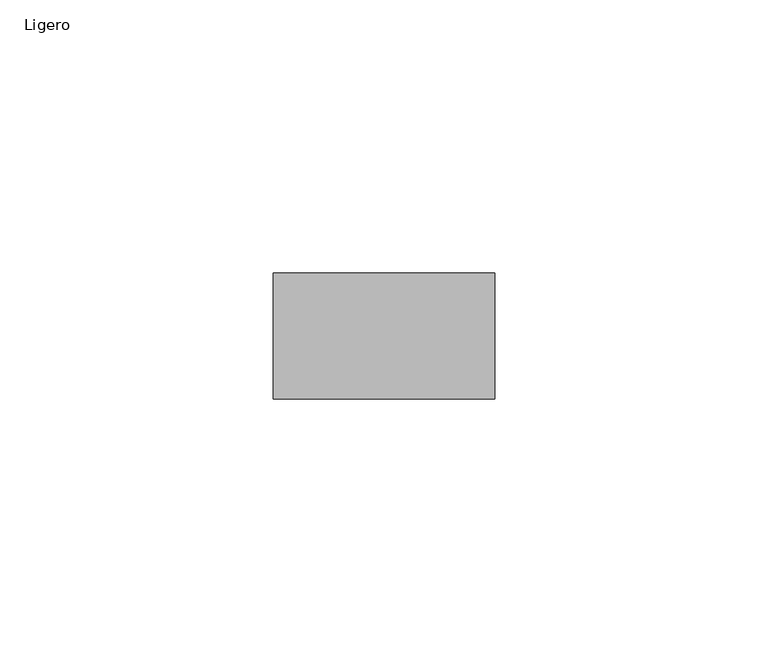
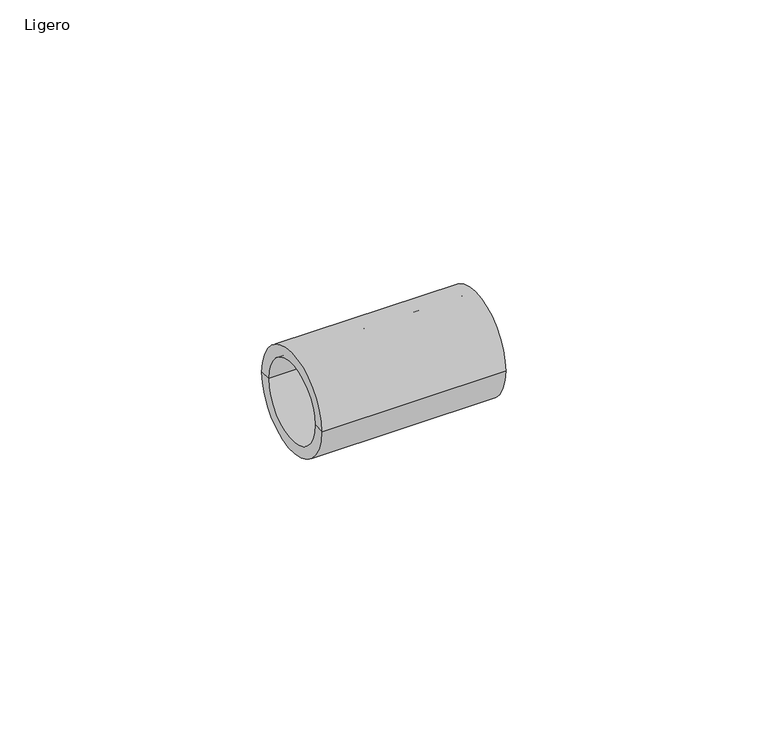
"""IFC4 building model written with IfcOpenShell, lengths in millimetres: cable carrier fitting geometry, AmancoWavin_Unionesdetubería_ConduitCople : Ligero."""

from ifc_helpers import new_model, si_unit, frame, origin, place, context, project, spatial, polyline, circle_curve, source, transform, mapped, element, save
from ifc_brep_helpers import plane_surface, cylinder_surface, revolved_surface, advanced_brep


def ligero_00a50f13(model_context):
    return source(origin(), model_context, "Body", "AdvancedBrep", [
        advanced_brep(
        [(-1.25, 0.0, 0.0), (-1.25, 8.95, 0.0), (-1.25, -8.95, 0.0), (1.25, -8.95, 0.0), (1.25, 8.95, 0.0), (1.25, 0.0, 0.0), (20.25, -8.95, 0.0), (20.25, 8.95, 0.0), (20.25, -11.5, 0.0), (20.25, 11.5, 0.0), (-20.25, -11.5, 0.0), (-20.25, 11.5, 0.0), (-20.25, -8.95, 0.0), (-20.25, 8.95, 0.0)],
        [
            (0, 1),
            (1, 2, circle_curve(frame((-1.25, 0.0, 0.0), z_axis=(-1.0, 0.0, 0.0), x_axis=(0.0, 1.0, 0.0)), 8.95)),
            (2, 0),
            (2, 1, circle_curve(frame((-1.25, 0.0, 0.0), z_axis=(-1.0, 0.0, 0.0), x_axis=(0.0, 1.0, 0.0)), 8.95)),
            (3, 4, circle_curve(frame((1.25, 0.0, 0.0), z_axis=(1.0, 0.0, 0.0), x_axis=(0.0, 1.0, 0.0)), 8.95)),
            (4, 5),
            (5, 3),
            (4, 3, circle_curve(frame((1.25, 0.0, 0.0), z_axis=(1.0, 0.0, 0.0), x_axis=(0.0, 1.0, 0.0)), 8.95)),
            (6, 7, circle_curve(frame((20.25, 0.0, 0.0), z_axis=(1.0, 0.0, 0.0), x_axis=(0.0, 1.0, 0.0)), 8.95)),
            (7, 4),
            (3, 6),
            (7, 6, circle_curve(frame((20.25, 0.0, 0.0), z_axis=(1.0, 0.0, 0.0), x_axis=(0.0, 1.0, 0.0)), 8.95)),
            (8, 9, circle_curve(frame((20.25, 0.0, 0.0), z_axis=(1.0, 0.0, 0.0), x_axis=(0.0, 1.0, 0.0)), 11.5)),
            (9, 7),
            (6, 8),
            (9, 8, circle_curve(frame((20.25, 0.0, 0.0), z_axis=(1.0, 0.0, 0.0), x_axis=(0.0, 1.0, 0.0)), 11.5)),
            (10, 11, circle_curve(frame((-20.25, 0.0, 0.0), z_axis=(1.0, 0.0, 0.0), x_axis=(0.0, 1.0, 0.0)), 11.5)),
            (11, 9),
            (8, 10),
            (11, 10, circle_curve(frame((-20.25, 0.0, 0.0), z_axis=(1.0, 0.0, 0.0), x_axis=(0.0, 1.0, 0.0)), 11.5)),
            (12, 13, circle_curve(frame((-20.25, 0.0, 0.0), z_axis=(1.0, 0.0, 0.0), x_axis=(0.0, 1.0, 0.0)), 8.95)),
            (13, 11),
            (10, 12),
            (13, 12, circle_curve(frame((-20.25, 0.0, 0.0), z_axis=(1.0, 0.0, 0.0), x_axis=(0.0, 1.0, 0.0)), 8.95)),
            (1, 13),
            (12, 2),
        ],
        [
            plane_surface(frame((-1.25, 0.0, 0.0), z_axis=(-1.0, 0.0, 0.0), x_axis=(0.0, 1.0, 0.0))),
            plane_surface(frame((1.25, 0.0, 0.0), z_axis=(1.0, 0.0, 0.0), x_axis=(0.0, 1.0, 0.0))),
            revolved_surface(polyline([(1.25, 8.95, 0.0), (20.25, 8.95, 0.0)]), (1999.61, 0.0, 0.0), (-1.0, 0.0, 0.0)),
            plane_surface(frame((20.25, 0.0, 0.0), z_axis=(1.0, 0.0, 0.0), x_axis=(0.0, 1.0, 0.0))),
            cylinder_surface(frame((1999.61, 0.0, 0.0), z_axis=(-1.0, 0.0, 0.0), x_axis=(0.0, 1.0, 0.0)), 11.5),
            plane_surface(frame((-20.25, 0.0, 0.0), z_axis=(-1.0, 0.0, 0.0), x_axis=(0.0, 1.0, 0.0))),
            revolved_surface(polyline([(-20.25, 8.95, 0.0), (-1.25, 8.95, 0.0)]), (1999.61, 0.0, 0.0), (-1.0, 0.0, 0.0)),
        ],
        [
            (0, [[1, 2, 3]]),
            (0, [[-3, 4, -1]]),
            (1, [[5, 6, 7]]),
            (1, [[8, -7, -6]]),
            (2, [[9, 10, -5, 11]]),
            (2, [[12, -11, -8, -10]]),
            (3, [[13, 14, -9, 15]]),
            (3, [[16, -15, -12, -14]]),
            (4, [[17, 18, -13, 19]]),
            (4, [[20, -19, -16, -18]]),
            (5, [[21, 22, -17, 23]]),
            (5, [[24, -23, -20, -22]]),
            (6, [[-2, 25, -21, 26]]),
            (6, [[-4, -26, -24, -25]]),
        ],
    ),
    ])


if __name__ == "__main__":
    model = new_model("IFC4")
    model_context = context("Model", 3, world=origin())
    ifc_project = project(units=[si_unit("LENGTHUNIT", "METRE", prefix="MILLI")], contexts=[model_context])
    site = spatial("IfcSite", under=ifc_project)
    building = spatial("IfcBuilding", under=site)
    placement = place(None, origin())
    ligero_shape = ligero_00a50f13(model_context)
    element("IfcCableCarrierFitting", 1, ObjectType="AmancoWavin_Unionesdetubería_ConduitCople : Ligero", at=placement, inside=building, context=model_context, shape_type="MappedRepresentation", body=[
        mapped(ligero_shape, transform((0.0, 0.0, 0.0), x_axis=(1.0, 0.0, 0.0), y_axis=(0.0, 1.0, 0.0), z_axis=(0.0, 0.0, 1.0))),
    ])
    save(model, "model.ifc")
